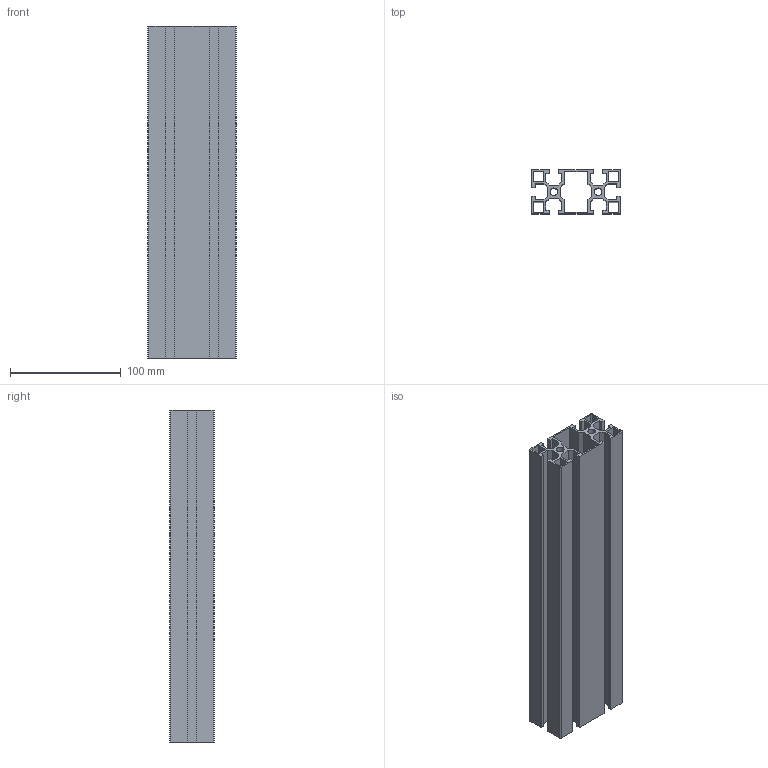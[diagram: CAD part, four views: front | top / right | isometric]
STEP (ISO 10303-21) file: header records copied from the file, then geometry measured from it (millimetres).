
FILE_DESCRIPTION (( 'STEP AP203' ), '1' );
FILE_NAME ('28-CG-4080L-8.STEP', '2015-07-07T03:25:14', ( '' ), ( '' ), 'SwSTEP 2.0', 'SolidWorks 2013', '' );
FILE_SCHEMA (( 'CONFIG_CONTROL_DESIGN' ));
Length unit declared in the file: millimetre
Products named in the file (1): 28-CG-4080L-8
Bounding box: 80 x 40 x 300 mm (x, y, z)
Volume: 255746.5 mm3; surface area: 233306.5 mm2
Topology: 1 solids, 1 shells, 110 faces, 324 edges, 216 vertices
Faces by surface type: plane 94, cylinder 16
Entity records: 3725 total; most frequent: CARTESIAN_POINT 651, ORIENTED_EDGE 648, DIRECTION 578, EDGE_CURVE 324, VECTOR 292, LINE 292, VERTEX_POINT 216, AXIS2_PLACEMENT_3D 143
